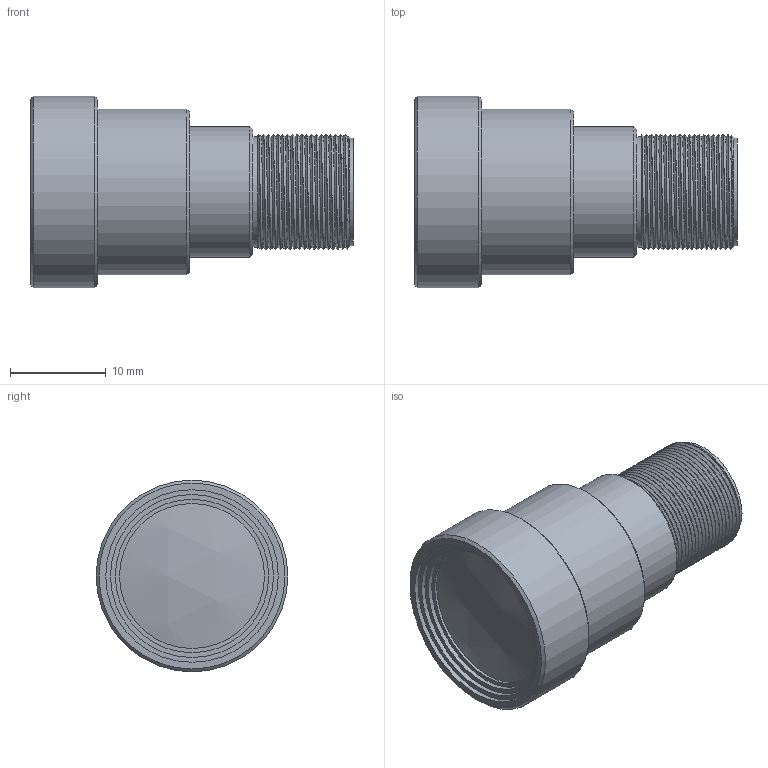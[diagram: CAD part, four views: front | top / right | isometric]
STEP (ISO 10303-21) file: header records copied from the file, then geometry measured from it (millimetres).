
FILE_DESCRIPTION(/* description */ (''),/* implementation_level */ '2;1');
FILE_NAME(/* name */ 'C:\Users\MaxHenkart\Desktop\Commonlands\Product\CIL350\CIL350-F2.4-M12ANIR.stp',/* time_stamp */ '2023-08-01T12:38:31-07:00',/* author */ ('MaxHenkart'),/* organization */ (''),/* preprocessor_version */ 'ST-DEVELOPER v19',/* originating_system */ 'Autodesk Inventor 2023',/* authorisation */ '');
FILE_SCHEMA (('AUTOMOTIVE_DESIGN { 1 0 10303 214 3 1 1 }'));
Length unit declared in the file: millimetre
Products named in the file (1): CIL350-F2.4-M12A650
Bounding box: 33.69 x 20 x 20 mm (x, y, z)
Volume: 6044.8 mm3; surface area: 2666.6 mm2
Topology: 1 solids, 2 shells, 66 faces, 150 edges, 98 vertices
Faces by surface type: cylinder 31, plane 13, bspline 12, cone 8, sphere 2
Full cylindrical faces by diameter (mm): 8 x1, 10 x1, 11.2 x1, 11.5 x1, 12 x18, 13.6 x1, 15.136 x1, 16 x1, 17 x1, 17.3 x1, 18 x1, 20 x1
Entity records: 16036 total; most frequent: CARTESIAN_POINT 14634, ORIENTED_EDGE 300, DIRECTION 232, EDGE_CURVE 150, VERTEX_POINT 98, AXIS2_PLACEMENT_3D 93, EDGE_LOOP 76, B_SPLINE_CURVE_WITH_KNOTS 66
